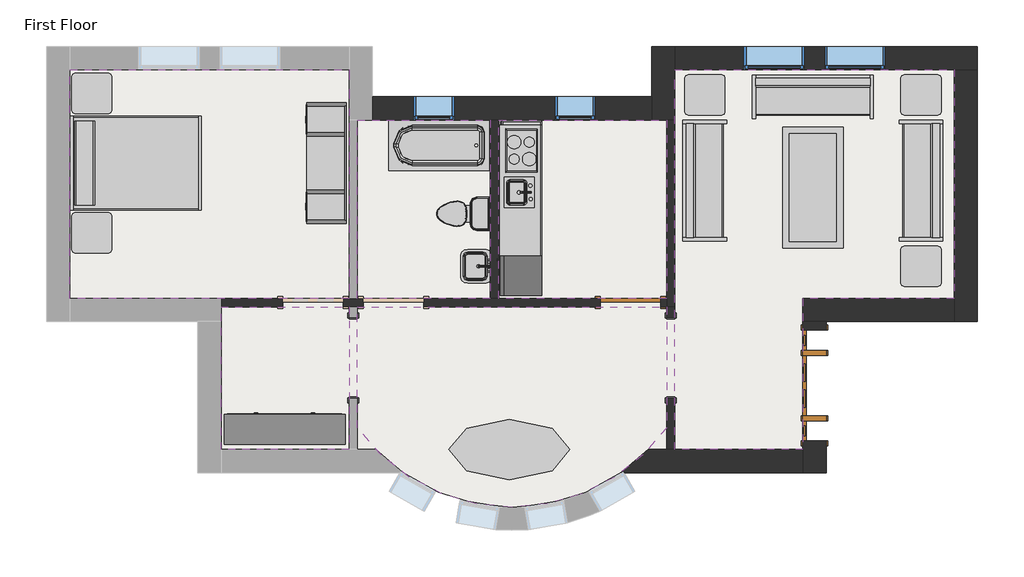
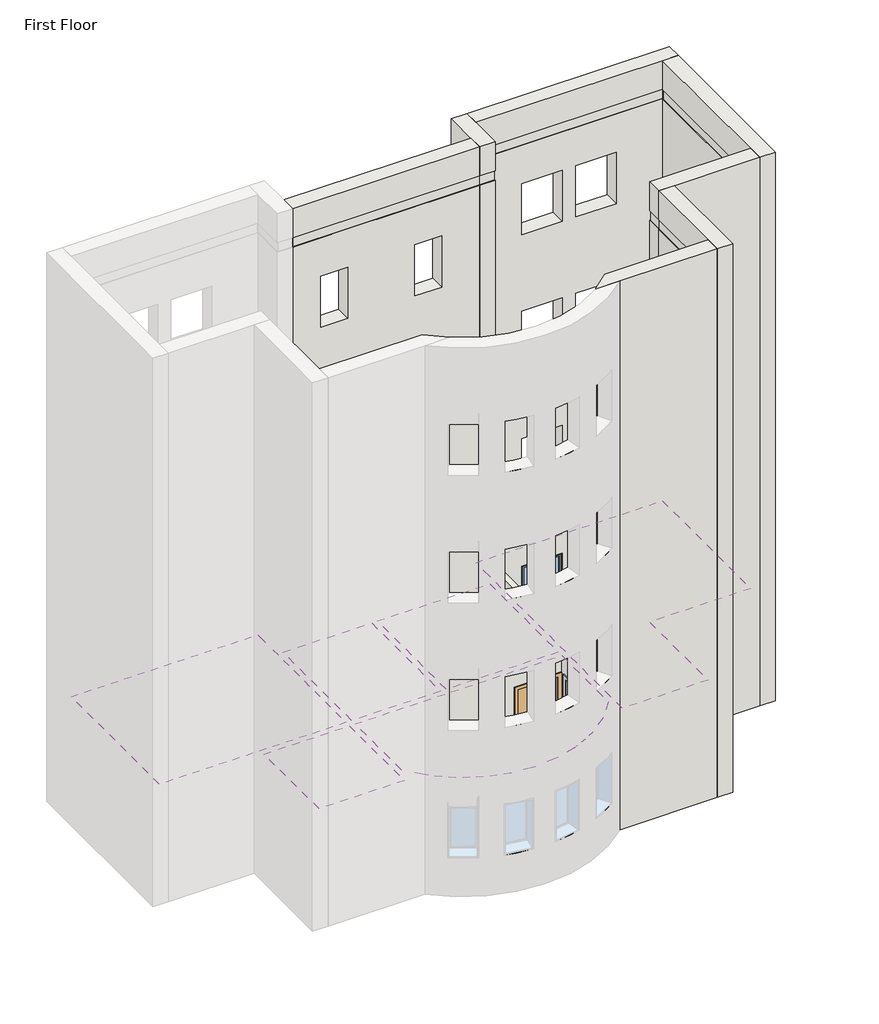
# One storey, part 3 of 3: 13 furniture elements, 11 walls, 6 coverings, 4 windows, 3 flow terminals, 3 proxies, 2 doors, 1 slab.
"""IFC4 building model written with IfcOpenShell, lengths in millimetres."""

from ifc_helpers import new_model, si_unit, point, frame, frame_2d, origin, origin_with_axes, place, context, project, spatial, polyline, circle_curve, trimmed, segment, composite_curve, outline, extrude, faceted_brep, transform, mapped, element, save
from ifc_brep_helpers import plane_surface, revolved_surface, advanced_brep
from components import kitchenette_medium_5_9f73a4de, proxy_f44482cc, door_a1797ceb, door_dba5aa2e, flow_terminal_0aeb31e3, toilet_domestic_3d_toilet_domestic_3d_f7549cf7, toilet_domestic_3d_toilet_domestic_3d_183bbd19, tub_rectangular_3d_tub_rectangular_3d_7c57b2e9, furniture_096e7f55, furniture_7c473f12, furniture_ddc78764, furniture_4ef38d96, furniture_dde8a40a, furniture_cd93a443, furniture_fe1f7ef6, furniture_3a588284, furniture_1befe2a2, window_60baf983, window_15c49d37

model = new_model("IFC4")

# Units and contexts
model_context = context("Model", 3, world=origin())
ifc_project = project(units=[si_unit("LENGTHUNIT", "METRE", prefix="MILLI")], contexts=[model_context])

# Site, building, storey
site = spatial("IfcSite", under=ifc_project)
building = spatial("IfcBuilding", under=site)
storey = spatial("IfcBuildingStorey", under=building, Name="First Floor", Elevation=0.0)

# Proxies
placement = place(None, origin())
kitchenette_medium_5_shape = kitchenette_medium_5_9f73a4de(model_context)
element("IfcBuildingElementProxy", 1, Name="Kitchenette - Medium : 5'", ObjectType="Kitchenette - Medium : 5'", at=placement, inside=storey, context=model_context, shape_type="MappedRepresentation", body=[
    mapped(kitchenette_medium_5_shape, transform((2117.6576571, 10885.525963, 0.0), x_axis=(0.0, -1.0, 0.0), y_axis=(1.0, 0.0, 0.0), z_axis=(0.0, 0.0, 1.0))),
])
proxy_shape = proxy_f44482cc(model_context)
element("IfcBuildingElementProxy", 2, Name="Opening-Cased : 48\" x 84\"", ObjectType="Opening-Cased : 48\" x 84\"", at=placement, inside=storey, context=model_context, shape_type="MappedRepresentation", body=[
    mapped(proxy_shape, transform((-732.7404149, 8023.3246014, 0.0), x_axis=(0.0, -1.0, 0.0), y_axis=(1.0, 0.0, 0.0), z_axis=(0.0, 0.0, 1.0))),
])
element("IfcBuildingElementProxy", 3, Name="Opening-Cased : 48\" x 84\"", ObjectType="Opening-Cased : 48\" x 84\"", at=placement, inside=storey, context=model_context, shape_type="MappedRepresentation", body=[
    mapped(proxy_shape, transform((4064.6845851, 8039.7019148, 0.0), x_axis=(0.0, 1.0, 0.0), y_axis=(-1.0, 0.0, 0.0), z_axis=(0.0, 0.0, 1.0))),
])

# Coverings
element("IfcCovering", 4, ObjectType="GWB on Mtl. Stud", at=placement, inside=storey, context=model_context, shape_type="SweptSolid", body=[
    extrude(outline(polyline([(-2906.0279149, 8933.2132581), (-5015.8154149, 8933.2132581), (-5015.8154149, 12390.7882581), (-796.2404149, 12390.7882581), (-796.2404149, 11805.0007581), (-796.2404149, 8933.2132581), (-2906.0279149, 8933.2132581)])), frame((0.0, 0.0, 2590.8), z_axis=(0.0, 0.0, 1.0), x_axis=(1.0, 0.0, 0.0)), (0.0, 0.0, 1.0), 107.95),
])
element("IfcCovering", 5, ObjectType="GWB on Mtl. Stud", at=placement, inside=storey, context=model_context, shape_type="SweptSolid", body=[
    extrude(outline(polyline([(-669.2404149, 8933.2132581), (-669.2404149, 11628.7882581), (1337.3595851, 11628.7882581), (1337.3595851, 8933.2132581), (-669.2404149, 8933.2132581)])), frame((0.0, 0.0, 2590.8), z_axis=(0.0, 0.0, 1.0), x_axis=(1.0, 0.0, 0.0)), (0.0, 0.0, 1.0), 107.95),
])
element("IfcCovering", 6, ObjectType="GWB on Mtl. Stud", at=placement, inside=storey, context=model_context, shape_type="SweptSolid", body=[
    extrude(outline(polyline([(1464.3595851, 11628.7882581), (4001.1845851, 11628.7882581), (4001.1845851, 8933.2132581), (1464.3595851, 8933.2132581), (1464.3595851, 11628.7882581)])), frame((0.0, 0.0, 2590.8), z_axis=(0.0, 0.0, 1.0), x_axis=(1.0, 0.0, 0.0)), (0.0, 0.0, 1.0), 107.95),
])
element("IfcCovering", 7, ObjectType="GWB on Mtl. Stud", at=placement, inside=storey, context=model_context, shape_type="SweptSolid", body=[
    extrude(outline(polyline([(8347.7595851, 12390.7882581), (8347.7595851, 8933.2132581), (6061.7595851, 8933.2132581), (6061.7595851, 6647.2132581), (4128.1845851, 6647.2132581), (4128.1845851, 8869.7132581), (4128.1845851, 11805.0007581), (4128.1845851, 12390.7882581), (8347.7595851, 12390.7882581)])), frame((0.0, 0.0, 2590.8), z_axis=(0.0, 0.0, 1.0), x_axis=(1.0, 0.0, 0.0)), (0.0, 0.0, 1.0), 107.95),
])
element("IfcCovering", 8, ObjectType="GWB on Mtl. Stud", at=placement, inside=storey, context=model_context, shape_type="SweptSolid", body=[
    extrude(outline(composite_curve([segment(trimmed(circle_curve(frame_2d((1665.9720851, 8647.7081431)), 2871.7875), [point((4001.1845851, 6976.19804))], [point((-669.2404149, 6976.19804))], False, "CARTESIAN"), True, "CONTINUOUS"), segment(polyline([(-669.2404149, 6976.19804), (-669.2404149, 8806.2132581), (4001.1845851, 8806.2132581), (4001.1845851, 6976.19804)]), True, "CONTINUOUS")], self_intersect=False)), frame((0.0, 0.0, 2590.8), z_axis=(0.0, 0.0, 1.0), x_axis=(1.0, 0.0, 0.0)), (0.0, 0.0, 1.0), 107.95),
])
element("IfcCovering", 9, ObjectType="GWB on Mtl. Stud", at=placement, inside=storey, context=model_context, shape_type="SweptSolid", body=[
    extrude(outline(polyline([(-796.2404149, 6647.2132581), (-2729.8154149, 6647.2132581), (-2729.8154149, 8806.2132581), (-796.2404149, 8806.2132581), (-796.2404149, 6647.2132581)])), frame((0.0, 0.0, 2590.8), z_axis=(0.0, 0.0, 1.0), x_axis=(1.0, 0.0, 0.0)), (0.0, 0.0, 1.0), 107.95),
])

# Doors
door_shape = door_a1797ceb(model_context)
element("IfcDoor", 10, ObjectType="Single-Flush : 36\" x 84\"", at=placement, inside=storey, context=model_context, shape_type="MappedRepresentation", body=[
    mapped(door_shape, transform((3455.0845851, 8869.7132581, 0.0), x_axis=(1.0, 0.0, 0.0), y_axis=(0.0, 1.0, 0.0), z_axis=(0.0, 0.0, 1.0))),
])
door_2_shape = door_dba5aa2e(model_context)
element("IfcDoor", 11, ObjectType="Single-Raised Panel with Sidelights : 36\" x 84\"", at=placement, inside=storey, context=model_context, shape_type="MappedRepresentation", body=[
    mapped(door_2_shape, transform((6237.9720851, 7614.0007581, 0.0), x_axis=(0.0, -1.0, 0.0), y_axis=(1.0, 0.0, 0.0), z_axis=(0.0, 0.0, 1.0))),
])

# Flow terminals
flow_terminal_shape = flow_terminal_0aeb31e3(model_context)
element("IfcFlowTerminal", 12, ObjectType="Sink Vanity-Square : 24\" x 19\"", at=placement, inside=storey, context=model_context, shape_type="MappedRepresentation", body=[
    mapped(flow_terminal_shape, transform((1157.214184, 9434.4995407, 0.0), x_axis=(0.0, -1.0, 0.0), y_axis=(1.0, 0.0, 0.0), z_axis=(0.0, 0.0, 1.0))),
])
toilet_domestic_3d_toilet_domestic_3d_shape = toilet_domestic_3d_toilet_domestic_3d_f7549cf7(model_context)
toilet_domestic_3d_toilet_domestic_3d_2_shape = toilet_domestic_3d_toilet_domestic_3d_183bbd19(model_context)
element("IfcFlowTerminal", 13, ObjectType="Toilet-Domestic-3D : Toilet-Domestic-3D", at=placement, inside=storey, context=model_context, shape_type="MappedRepresentation", body=[
    mapped(toilet_domestic_3d_toilet_domestic_3d_shape, transform((831.6983718, 10214.097778, 0.0), x_axis=(0.0, -1.0000000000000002, 0.0), y_axis=(1.0000000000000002, 0.0, 0.0), z_axis=(0.0, 0.0, 1.0))),
    mapped(toilet_domestic_3d_toilet_domestic_3d_2_shape, transform((831.6983718, 10214.097778, 0.0), x_axis=(0.0, -1.0000000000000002, 0.0), y_axis=(1.0000000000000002, 0.0, 0.0), z_axis=(0.0, 0.0, 1.0))),
])
tub_rectangular_3d_tub_rectangular_3d_shape = tub_rectangular_3d_tub_rectangular_3d_7c57b2e9(model_context)
element("IfcFlowTerminal", 14, ObjectType="Tub-Rectangular-3D : Tub-Rectangular-3D", at=placement, inside=storey, context=model_context, shape_type="MappedRepresentation", body=[
    mapped(tub_rectangular_3d_tub_rectangular_3d_shape, transform((214.0566164, 11805.0007581, 0.0), x_axis=(-0.9999999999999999, 0.0, 0.0), y_axis=(0.0, -0.9999999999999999, 0.0), z_axis=(0.0, 0.0, 1.0))),
])

# Furniture
furniture_shape = furniture_096e7f55(model_context)
element("IfcFurniture", 15, ObjectType="Bed-Shaker : Double 56\" x 78\"", at=placement, inside=storey, context=model_context, shape_type="MappedRepresentation", body=[
    mapped(furniture_shape, transform((-5013.1126898, 10998.5900785, 0.0), x_axis=(0.0, 1.0, 0.0), y_axis=(-1.0, 0.0, 0.0), z_axis=(0.0, 0.0, 1.0))),
])
furniture_2_shape = furniture_7c473f12(model_context)
element("IfcFurniture", 16, ObjectType="Dresser : 72\" x 60\" x 18\"", at=placement, inside=storey, context=model_context, shape_type="MappedRepresentation", body=[
    mapped(furniture_2_shape, transform((-2039.8604591, 6588.850304, 0.0), x_axis=(-1.0, 0.0, 0.0), y_axis=(0.0, -1.0, 0.0), z_axis=(0.0, 0.0, 1.0))),
])
furniture_3_shape = furniture_ddc78764(model_context)
element("IfcFurniture", 17, ObjectType="Entertainment Center : 72\" x 72\" x 24\"", at=placement, inside=storey, context=model_context, shape_type="MappedRepresentation", body=[
    mapped(furniture_3_shape, transform((-733.8851408, 10979.5400785, 0.0), x_axis=(0.0, -1.0, 0.0), y_axis=(1.0, 0.0, 0.0), z_axis=(0.0, 0.0, 1.0))),
])
furniture_4_shape = furniture_4ef38d96(model_context)
element("IfcFurniture", 18, ObjectType="Sofa : 72\"", at=placement, inside=storey, context=model_context, shape_type="MappedRepresentation", body=[
    mapped(furniture_4_shape, transform((6143.7890933, 11835.0591598, 0.0), x_axis=(1.0, 0.0, 0.0), y_axis=(0.0, 1.0, 0.0), z_axis=(0.0, 0.0, 1.0))),
])
element("IfcFurniture", 19, ObjectType="Sofa : 72\"", at=placement, inside=storey, context=model_context, shape_type="MappedRepresentation", body=[
    mapped(furniture_4_shape, transform((4726.0692419, 10644.2919955, 0.0), x_axis=(0.0, 1.0, 0.0), y_axis=(-1.0, 0.0, 0.0), z_axis=(0.0, 0.0, 1.0))),
])
furniture_5_shape = furniture_dde8a40a(model_context)
element("IfcFurniture", 20, ObjectType="Sofa : 72\"", at=placement, inside=storey, context=model_context, shape_type="MappedRepresentation", body=[
    mapped(furniture_5_shape, transform((7702.2499284, 10644.2919955, 0.0), x_axis=(0.0, 1.0, 0.0), y_axis=(-1.0, 0.0, 0.0), z_axis=(0.0, 0.0, 1.0))),
])
furniture_6_shape = furniture_cd93a443(model_context)
element("IfcFurniture", 21, ObjectType="Table-Coffee : 36\" x 72\" x 18\"", at=placement, inside=storey, context=model_context, shape_type="MappedRepresentation", body=[
    mapped(furniture_6_shape, transform((6118.9485073, 10627.8790248, 0.0), x_axis=(0.0, -1.0, 0.0), y_axis=(1.0, 0.0, 0.0), z_axis=(0.0, 0.0, 1.0))),
])
furniture_7_shape = furniture_fe1f7ef6(model_context)
element("IfcFurniture", 22, ObjectType="Table-Ellipse : 72\" x 36\"", at=placement, inside=storey, context=model_context, shape_type="MappedRepresentation", body=[
    mapped(furniture_7_shape, transform((1626.2845851, 6647.2132581, 0.0), x_axis=(1.0, 0.0, 0.0), y_axis=(0.0, 1.0, 0.0), z_axis=(0.0, 0.0, 1.0))),
])
furniture_8_shape = furniture_3a588284(model_context)
element("IfcFurniture", 23, ObjectType="Table-End : 24\" x 24\"", at=placement, inside=storey, context=model_context, shape_type="MappedRepresentation", body=[
    mapped(furniture_8_shape, transform((4271.3815133, 11857.6624873, 0.0), x_axis=(1.0, 0.0, 0.0), y_axis=(0.0, 1.0, 0.0), z_axis=(0.0, 0.0, 1.0))),
])
element("IfcFurniture", 24, ObjectType="Table-End : 24\" x 24\"", at=placement, inside=storey, context=model_context, shape_type="MappedRepresentation", body=[
    mapped(furniture_8_shape, transform((-4994.1490451, 11882.7882581, 0.0), x_axis=(1.0, 0.0, 0.0), y_axis=(0.0, 1.0, 0.0), z_axis=(0.0, 0.0, 1.0))),
])
element("IfcFurniture", 25, ObjectType="Table-End : 24\" x 24\"", at=placement, inside=storey, context=model_context, shape_type="MappedRepresentation", body=[
    mapped(furniture_8_shape, transform((8156.937657, 9571.6624873, 0.0), x_axis=(-1.0, 0.0, 0.0), y_axis=(0.0, -1.0, 0.0), z_axis=(0.0, 0.0, 1.0))),
])
furniture_9_shape = furniture_1befe2a2(model_context)
element("IfcFurniture", 26, ObjectType="Table-End : 24\" x 24\"", at=placement, inside=storey, context=model_context, shape_type="MappedRepresentation", body=[
    mapped(furniture_9_shape, transform((-4994.1490451, 10076.2918989, 0.0), x_axis=(1.0, 0.0, 0.0), y_axis=(0.0, 1.0, 0.0), z_axis=(0.0, 0.0, 1.0))),
])
element("IfcFurniture", 27, ObjectType="Table-End : 24\" x 24\"", at=placement, inside=storey, context=model_context, shape_type="MappedRepresentation", body=[
    mapped(furniture_9_shape, transform((8156.937657, 11857.6624873, 0.0), x_axis=(-1.0, 0.0, 0.0), y_axis=(0.0, -1.0, 0.0), z_axis=(0.0, 0.0, 1.0))),
])

# Slab
element("IfcSlab", 28, ObjectType="LW Concrete on Metal Deck", at=placement, inside=storey, context=model_context, shape_type="SweptSolid", body=[
    extrude(outline(composite_curve([segment(polyline([(-783.5404149, 12403.4882581), (-783.5404149, 11641.4882581), (4115.4845851, 11641.4882581), (4115.4845851, 12403.4882581), (8360.4595851, 12403.4882581), (8360.4595851, 8920.5132581), (6074.4595851, 8920.5132581), (6074.4595851, 6634.5132581), (3713.949087, 6634.5132581)]), True, "CONTINUOUS"), segment(trimmed(circle_curve(frame_2d((1665.9720851, 8647.7081431)), 2871.7875), [point((3713.949087, 6634.5132581))], [point((-382.0049167, 6634.5132581))], False, "CARTESIAN"), True, "CONTINUOUS"), segment(polyline([(-382.0049167, 6634.5132581), (-2742.5154149, 6634.5132581), (-2742.5154149, 8920.5132581), (-5028.5154149, 8920.5132581), (-5028.5154149, 12403.4882581), (-783.5404149, 12403.4882581)]), True, "CONTINUOUS")], self_intersect=False)), frame((0.0, 0.0, -104.775), z_axis=(0.0, 0.0, 1.0), x_axis=(1.0, 0.0, 0.0)), (0.0, 0.0, 1.0), 104.775),
])

# Walls
element("IfcWall", 29, ObjectType="Exterior - Brick on Mtl. Stud", at=placement, inside=storey, context=model_context, shape_type="Brep", body=[
    faceted_brep([(8347.7595851, 12390.7882581, 0.0), (8347.7595851, 8933.2132581, 0.0), (8347.7595851, 8580.7882581, 0.0), (8347.7595851, 8580.7882581, 13106.4), (8347.7595851, 8933.2132581, 13106.4), (8347.7595851, 12390.7882581, 13106.4), (8347.7595851, 12390.7882581, 12420.6), (8347.7595851, 8933.2132581, 12420.6), (8347.7595851, 8920.5132581, 12420.6), (8347.7595851, 8920.5132581, 12192.0), (8347.7595851, 8933.2132581, 12192.0), (8347.7595851, 12390.7882581, 12192.0), (8700.1845851, 8580.7882581, 0.0), (8700.1845851, 12390.7882581, 0.0), (8700.1845851, 12390.7882581, 13106.4), (8700.1845851, 8580.7882581, 13106.4), (8360.4595851, 12390.7882581, 12192.0), (8360.4595851, 12390.7882581, 12420.6), (8360.4595851, 8920.5132581, 12192.0), (8360.4595851, 8920.5132581, 12420.6)], [[[0, 1, 2, 3, 4, 5, 6, 7, 8, 9, 10, 11]], [[12, 13, 14, 15]], [[2, 1, 0, 13, 12]], [[5, 4, 3, 15, 14]], [[3, 2, 12, 15]], [[5, 14, 13, 0, 11, 16, 17, 6]], [[9, 18, 16, 11, 10]], [[17, 19, 8, 7, 6]], [[18, 19, 17, 16]], [[19, 18, 9, 8]]]),
])
element("IfcWall", 30, ObjectType="Exterior - Brick on Mtl. Stud", at=placement, inside=storey, context=model_context, shape_type="Brep", body=[
    faceted_brep([(8347.7595851, 8933.2132581, 0.0), (6061.7595851, 8933.2132581, 0.0), (6061.7595851, 8933.2132581, 12192.0), (8347.7595851, 8933.2132581, 12192.0), (6061.7595851, 8933.2132581, 13106.4), (8347.7595851, 8933.2132581, 13106.4), (8347.7595851, 8933.2132581, 12420.6), (6061.7595851, 8933.2132581, 12420.6), (6061.7595851, 8580.7882581, 0.0), (6414.1845851, 8580.7882581, 0.0), (8347.7595851, 8580.7882581, 0.0), (8347.7595851, 8580.7882581, 13106.4), (6414.1845851, 8580.7882581, 13106.4), (6061.7595851, 8580.7882581, 13106.4), (6061.7595851, 8580.7882581, 12420.6), (6074.4595851, 8580.7882581, 12420.6), (6074.4595851, 8580.7882581, 12192.0), (6061.7595851, 8580.7882581, 12192.0), (8347.7595851, 8920.5132581, 12192.0), (8347.7595851, 8920.5132581, 12420.6), (6074.4595851, 8920.5132581, 12192.0), (6074.4595851, 8920.5132581, 12420.6)], [[[0, 1, 2, 3]], [[4, 5, 6, 7]], [[8, 9, 10, 11, 12, 13, 14, 15, 16, 17]], [[1, 0, 10, 9, 8]], [[5, 4, 13, 12, 11]], [[1, 8, 17, 2]], [[13, 4, 7, 14]], [[5, 11, 10, 0, 3, 18, 19, 6]], [[16, 20, 18, 3, 2, 17]], [[19, 21, 15, 14, 7, 6]], [[20, 21, 19, 18]], [[21, 20, 16, 15]]]),
])
element("IfcWall", 31, ObjectType="Exterior - Brick on Mtl. Stud", at=placement, inside=storey, context=model_context, shape_type="Brep", body=[
    faceted_brep([(6061.7595851, 6294.7882581, 13106.4), (6061.7595851, 6647.2132581, 13106.4), (6061.7595851, 8580.7882581, 13106.4), (6061.7595851, 8580.7882581, 12420.6), (6061.7595851, 6647.2132581, 12420.6), (6061.7595851, 6634.5132581, 12420.6), (6061.7595851, 6634.5132581, 12192.0), (6061.7595851, 6647.2132581, 12192.0), (6061.7595851, 8580.7882581, 12192.0), (6061.7595851, 8580.7882581, 0.0), (6061.7595851, 8452.2007581, 0.0), (6061.7595851, 8452.2007581, 2133.6), (6061.7595851, 6775.8007581, 2133.6), (6061.7595851, 6775.8007581, 0.0), (6061.7595851, 6647.2132581, 0.0), (6061.7595851, 6294.7882581, 0.0), (6061.7595851, 6775.8007581, 9144.0), (6061.7595851, 8452.2007581, 9144.0), (6061.7595851, 8452.2007581, 11277.6), (6061.7595851, 6775.8007581, 11277.6), (6061.7595851, 6775.8007581, 3048.0), (6061.7595851, 8452.2007581, 3048.0), (6061.7595851, 8452.2007581, 5181.6), (6061.7595851, 6775.8007581, 5181.6), (6061.7595851, 6775.8007581, 6096.0), (6061.7595851, 8452.2007581, 6096.0), (6061.7595851, 8452.2007581, 8229.6), (6061.7595851, 6775.8007581, 8229.6), (6414.1845851, 8580.7882581, 13106.4), (6414.1845851, 6294.7882581, 13106.4), (6414.1845851, 6294.7882581, 0.0), (6414.1845851, 6775.8007581, 0.0), (6414.1845851, 6775.8007581, 2133.6), (6414.1845851, 8452.2007581, 2133.6), (6414.1845851, 8452.2007581, 0.0), (6414.1845851, 8580.7882581, 0.0), (6414.1845851, 8452.2007581, 9144.0), (6414.1845851, 6775.8007581, 9144.0), (6414.1845851, 6775.8007581, 11277.6), (6414.1845851, 8452.2007581, 11277.6), (6414.1845851, 8452.2007581, 3048.0), (6414.1845851, 6775.8007581, 3048.0), (6414.1845851, 6775.8007581, 5181.6), (6414.1845851, 8452.2007581, 5181.6), (6414.1845851, 8452.2007581, 6096.0), (6414.1845851, 6775.8007581, 6096.0), (6414.1845851, 6775.8007581, 8229.6), (6414.1845851, 8452.2007581, 8229.6), (6074.4595851, 8580.7882581, 12192.0), (6074.4595851, 8580.7882581, 12420.6), (6074.4595851, 6634.5132581, 12192.0), (6074.4595851, 6634.5132581, 12420.6)], [[[0, 1, 2, 3, 4, 5, 6, 7, 8, 9, 10, 11, 12, 13, 14, 15], [16, 17, 18, 19], [20, 21, 22, 23], [24, 25, 26, 27]], [[28, 29, 30, 31, 32, 33, 34, 35], [36, 37, 38, 39], [40, 41, 42, 43], [44, 45, 46, 47]], [[30, 15, 14, 13, 31]], [[9, 35, 34, 10]], [[2, 1, 0, 29, 28]], [[0, 15, 30, 29]], [[2, 28, 35, 9, 8, 48, 49, 3]], [[32, 31, 13, 12]], [[33, 32, 12, 11]], [[34, 33, 11, 10]], [[37, 36, 17, 16]], [[38, 37, 16, 19]], [[39, 38, 19, 18]], [[36, 39, 18, 17]], [[41, 40, 21, 20]], [[42, 41, 20, 23]], [[43, 42, 23, 22]], [[40, 43, 22, 21]], [[45, 44, 25, 24]], [[46, 45, 24, 27]], [[47, 46, 27, 26]], [[44, 47, 26, 25]], [[6, 50, 48, 8, 7]], [[49, 51, 5, 4, 3]], [[50, 51, 49, 48]], [[51, 50, 6, 5]]]),
])
element("IfcWall", 32, ObjectType="Exterior - Brick on Mtl. Stud", at=placement, inside=storey, context=model_context, shape_type="AdvancedBrep", body=[
    advanced_brep(
    [(6061.7595851, 6647.2132581, 0.0), (4128.1845851, 6647.2132581, 0.0), (4001.1845851, 6647.2132581, 0.0), (3726.3564328, 6647.2132581, 0.0), (3726.3564328, 6647.2132581, 12192.0), (4001.1845851, 6647.2132581, 12192.0), (4128.1845851, 6647.2132581, 12192.0), (6061.7595851, 6647.2132581, 12192.0), (3726.3564328, 6647.2132581, 13106.4), (6061.7595851, 6647.2132581, 13106.4), (6061.7595851, 6647.2132581, 12420.6), (3726.3564328, 6647.2132581, 12420.6), (3312.4627349, 6294.7882581, 0.0), (3870.3573191, 6294.7882581, 0.0), (6061.7595851, 6294.7882581, 0.0), (6061.7595851, 6294.7882581, 13106.4), (3870.3573191, 6294.7882581, 13106.4), (3312.4627349, 6294.7882581, 13106.4), (3312.4627349, 6294.7882581, 12420.6), (3620.9496559, 6294.7882581, 12420.6), (3620.9496559, 6294.7882581, 12192.0), (3312.4627349, 6294.7882581, 12192.0), (3312.4627349, 6294.7882581, 11277.6), (3361.7509829, 6294.7882581, 11277.6), (3361.7509829, 6294.7882581, 10058.4), (3312.4627349, 6294.7882581, 10058.4), (3312.4627349, 6294.7882581, 8229.6), (3361.7509829, 6294.7882581, 8229.6), (3361.7509829, 6294.7882581, 7010.4), (3312.4627349, 6294.7882581, 7010.4), (3312.4627349, 6294.7882581, 5181.6), (3361.7509829, 6294.7882581, 5181.6), (3361.7509829, 6294.7882581, 3962.4), (3312.4627349, 6294.7882581, 3962.4), (3312.4627349, 6294.7882581, 2133.6), (3361.7509829, 6294.7882581, 2133.6), (3361.7509829, 6294.7882581, 914.4), (3312.4627349, 6294.7882581, 914.4), (3320.3742367, 6300.3443098, 914.4), (3320.3742367, 6300.3443098, 2133.6), (3320.3742367, 6300.3443098, 3962.4), (3320.3742367, 6300.3443098, 5181.6), (3320.3742367, 6300.3443098, 7010.4), (3320.3742367, 6300.3443098, 8229.6), (3320.3742367, 6300.3443098, 10058.4), (3320.3742367, 6300.3443098, 11277.6), (6061.7595851, 6634.5132581, 12192.0), (6061.7595851, 6634.5132581, 12420.6), (3349.1702511, 6316.8014694, 914.4), (3349.1702511, 6316.8014694, 2133.6), (3349.1702511, 6316.8014694, 10058.4), (3349.1702511, 6316.8014694, 11277.6), (3349.1702511, 6316.8014694, 3962.4), (3349.1702511, 6316.8014694, 5181.6), (3349.1702511, 6316.8014694, 7010.4), (3349.1702511, 6316.8014694, 8229.6), (3969.2774584, 6634.5132581, 12192.0), (3969.2774584, 6634.5132581, 12420.6)],
    [
        (0, 1),
        (1, 2),
        (2, 3),
        (3, 4),
        (4, 5),
        (5, 6),
        (6, 7),
        (7, 0),
        (8, 9),
        (9, 10),
        (10, 11),
        (11, 8),
        (12, 13),
        (13, 14),
        (14, 15),
        (15, 16),
        (16, 17),
        (17, 18),
        (18, 19),
        (19, 20),
        (20, 21),
        (21, 22),
        (22, 23),
        (23, 24),
        (24, 25),
        (25, 26),
        (26, 27),
        (27, 28),
        (28, 29),
        (29, 30),
        (30, 31),
        (31, 32),
        (32, 33),
        (33, 34),
        (34, 35),
        (35, 36),
        (36, 37),
        (37, 12),
        (0, 14),
        (12, 3, circle_curve(frame((1665.9720851, 8647.7081431, 0.0), z_axis=(0.0, 0.0, 1.0), x_axis=(1.0, 0.0, 0.0)), 2871.7875)),
        (8, 17, circle_curve(frame((1665.9720851, 8647.7081431, 13106.4), z_axis=(0.0, 0.0, -1.0), x_axis=(1.0, 0.0, 0.0)), 2871.7875)),
        (15, 9),
        (37, 38, circle_curve(frame((1665.9720851, 8647.7081431, 914.4), z_axis=(0.0, 0.0, 1.0), x_axis=(1.0, 0.0, 0.0)), 2871.7875)),
        (38, 39),
        (39, 34, circle_curve(frame((1665.9720851, 8647.7081431, 2133.6), z_axis=(0.0, 0.0, -1.0), x_axis=(1.0, 0.0, 0.0)), 2871.7875)),
        (33, 40, circle_curve(frame((1665.9720851, 8647.7081431, 3962.4), z_axis=(0.0, 0.0, 1.0), x_axis=(1.0, 0.0, 0.0)), 2871.7875)),
        (40, 41),
        (41, 30, circle_curve(frame((1665.9720851, 8647.7081431, 5181.6), z_axis=(0.0, 0.0, -1.0), x_axis=(1.0, 0.0, 0.0)), 2871.7875)),
        (29, 42, circle_curve(frame((1665.9720851, 8647.7081431, 7010.4), z_axis=(0.0, 0.0, 1.0), x_axis=(1.0, 0.0, 0.0)), 2871.7875)),
        (42, 43),
        (43, 26, circle_curve(frame((1665.9720851, 8647.7081431, 8229.6), z_axis=(0.0, 0.0, -1.0), x_axis=(1.0, 0.0, 0.0)), 2871.7875)),
        (25, 44, circle_curve(frame((1665.9720851, 8647.7081431, 10058.4), z_axis=(0.0, 0.0, 1.0), x_axis=(1.0, 0.0, 0.0)), 2871.7875)),
        (44, 45),
        (45, 22, circle_curve(frame((1665.9720851, 8647.7081431, 11277.6), z_axis=(0.0, 0.0, -1.0), x_axis=(1.0, 0.0, 0.0)), 2871.7875)),
        (21, 4, circle_curve(frame((1665.9720851, 8647.7081431, 12192.0), z_axis=(0.0, 0.0, 1.0), x_axis=(1.0, 0.0, 0.0)), 2871.7875)),
        (11, 18, circle_curve(frame((1665.9720851, 8647.7081431, 12420.6), z_axis=(0.0, 0.0, -1.0), x_axis=(1.0, 0.0, 0.0)), 2871.7875)),
        (7, 46),
        (46, 47),
        (47, 10),
        (48, 49),
        (49, 39),
        (38, 48),
        (36, 48),
        (35, 49),
        (50, 51),
        (51, 45),
        (44, 50),
        (24, 50),
        (23, 51),
        (52, 53),
        (53, 41),
        (40, 52),
        (32, 52),
        (31, 53),
        (54, 55),
        (55, 43),
        (42, 54),
        (28, 54),
        (27, 55),
        (20, 56, circle_curve(frame((1665.9720851, 8647.7081431, 12192.0), z_axis=(0.0, 0.0, 1.0), x_axis=(1.0, 0.0, 0.0)), 3059.1125)),
        (56, 46),
        (47, 57),
        (57, 19, circle_curve(frame((1665.9720851, 8647.7081431, 12420.6), z_axis=(0.0, 0.0, -1.0), x_axis=(1.0, 0.0, 0.0)), 3059.1125)),
        (56, 57),
    ],
    [
        plane_surface(frame((6237.9720851, 6647.2132581, 0.0), z_axis=(0.0, 1.0, 0.0), x_axis=(-1.0, 0.0, 0.0))),
        plane_surface(frame((6237.9720851, 6294.7882581, 0.0), z_axis=(0.0, -1.0, 0.0), x_axis=(1.0, 0.0, 0.0))),
        plane_surface(frame((6237.9720851, 6647.2132581, 0.0), z_axis=(0.0, 0.0, -1.0), x_axis=(0.0, -1.0, 0.0))),
        plane_surface(frame((3799.5720851, 6647.2132581, 13106.4), z_axis=(0.0, 0.0, 1.0), x_axis=(0.0, -1.0, 0.0))),
        revolved_surface(polyline([(4537.7595851, 8647.7081431, 0.0), (4537.7595851, 8647.7081431, 12192.0)]), (1665.9720851, 8647.7081431, 0.0), (0.0, 0.0, -1.0)),
        revolved_surface(polyline([(4537.7595851, 8647.7081431, 12420.6), (4537.7595851, 8647.7081431, 13106.4)]), (1665.9720851, 8647.7081431, 0.0), (0.0, 0.0, -1.0)),
        plane_surface(frame((6061.7595851, 8757.0007581, 0.0), z_axis=(1.0, 0.0, 0.0), x_axis=(0.0, -1.0, 0.0))),
        plane_surface(frame((2819.9073972, 6014.3233852, 2133.6), z_axis=(0.49619108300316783, -0.8682133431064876, 0.0), x_axis=(0.0, 0.0, 1.0))),
        plane_surface(frame((2993.993531, 5709.7151216, 914.4), z_axis=(0.0, 0.0, 1.0), x_axis=(-0.4961910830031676, 0.8682133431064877, 0.0))),
        plane_surface(frame((3523.2563849, 6012.1932058, 914.4), z_axis=(-0.8682133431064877, -0.4961910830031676, 0.0), x_axis=(-0.4961910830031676, 0.8682133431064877, 0.0))),
        plane_surface(frame((3523.2563849, 6012.1932058, 2133.6), z_axis=(0.0, 0.0, -1.0), x_axis=(-0.4961910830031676, 0.8682133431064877, 0.0))),
        plane_surface(frame((2819.9073972, 6014.3233852, 11277.6), z_axis=(0.4961910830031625, -0.8682133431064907, 0.0), x_axis=(0.0, 0.0, 1.0))),
        plane_surface(frame((2993.993531, 5709.7151216, 10058.4), z_axis=(0.0, 0.0, 1.0000000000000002), x_axis=(-0.4961910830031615, 0.8682133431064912, 0.0))),
        plane_surface(frame((3523.2563849, 6012.1932058, 10058.4), z_axis=(-0.8682133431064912, -0.4961910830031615, 0.0), x_axis=(-0.4961910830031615, 0.8682133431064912, 0.0))),
        plane_surface(frame((3523.2563849, 6012.1932058, 11277.6), z_axis=(0.0, 0.0, -1.0000000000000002), x_axis=(-0.4961910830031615, 0.8682133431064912, 0.0))),
        plane_surface(frame((2819.9073972, 6014.3233852, 5181.6), z_axis=(0.4961910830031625, -0.8682133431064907, 0.0), x_axis=(0.0, 0.0, 1.0))),
        plane_surface(frame((2993.993531, 5709.7151216, 3962.4), z_axis=(0.0, 0.0, 1.0000000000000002), x_axis=(-0.4961910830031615, 0.8682133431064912, 0.0))),
        plane_surface(frame((3523.2563849, 6012.1932058, 3962.4), z_axis=(-0.8682133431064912, -0.4961910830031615, 0.0), x_axis=(-0.4961910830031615, 0.8682133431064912, 0.0))),
        plane_surface(frame((3523.2563849, 6012.1932058, 5181.6), z_axis=(0.0, 0.0, -1.0000000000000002), x_axis=(-0.4961910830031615, 0.8682133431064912, 0.0))),
        plane_surface(frame((2819.9073972, 6014.3233852, 8229.6), z_axis=(0.4961910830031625, -0.8682133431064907, 0.0), x_axis=(0.0, 0.0, 1.0))),
        plane_surface(frame((2993.993531, 5709.7151216, 7010.4), z_axis=(0.0, 0.0, 1.0000000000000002), x_axis=(-0.4961910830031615, 0.8682133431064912, 0.0))),
        plane_surface(frame((3523.2563849, 6012.1932058, 7010.4), z_axis=(-0.8682133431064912, -0.4961910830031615, 0.0), x_axis=(-0.4961910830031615, 0.8682133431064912, 0.0))),
        plane_surface(frame((3523.2563849, 6012.1932058, 8229.6), z_axis=(0.0, 0.0, -1.0000000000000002), x_axis=(-0.4961910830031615, 0.8682133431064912, 0.0))),
        plane_surface(frame((-5028.5154149, 12403.4882581, 12192.0), z_axis=(0.0, 0.0, 1.0), x_axis=(1.0, 0.0, 0.0))),
        plane_surface(frame((-5028.5154149, 12403.4882581, 12420.6), z_axis=(0.0, 0.0, -1.0), x_axis=(1.0, 0.0, 0.0))),
        plane_surface(frame((3969.2774584, 6634.5132581, 12192.0), z_axis=(0.0, 1.0, 0.0), x_axis=(1.0, 0.0, 0.0))),
        revolved_surface(polyline([(4725.0845851, 8647.7081431, 12420.6), (4725.0845851, 8647.7081431, 12192.0)]), (1665.9720851, 8647.7081431, 12192.0), (0.0, 0.0, 1.0)),
    ],
    [
        (0, [[1, 2, 3, 4, 5, 6, 7, 8]]),
        (0, [[9, 10, 11, 12]]),
        (1, [[13, 14, 15, 16, 17, 18, 19, 20, 21, 22, 23, 24, 25, 26, 27, 28, 29, 30, 31, 32, 33, 34, 35, 36, 37, 38]]),
        (2, [[-3, -2, -1, 39, -14, -13, 40]]),
        (3, [[-9, 41, -17, -16, 42]]),
        (4, [[-40, -38, 43, 44, 45, -34, 46, 47, 48, -30, 49, 50, 51, -26, 52, 53, 54, -22, 55, -4]]),
        (5, [[-41, -12, 56, -18]]),
        (6, [[-42, -15, -39, -8, 57, 58, 59, -10]]),
        (7, [[60, 61, -44, 62]]),
        (8, [[63, -62, -43, -37]]),
        (9, [[-60, -63, -36, 64]]),
        (10, [[-64, -35, -45, -61]]),
        (11, [[65, 66, -53, 67]]),
        (12, [[68, -67, -52, -25]]),
        (13, [[-65, -68, -24, 69]]),
        (14, [[-69, -23, -54, -66]]),
        (15, [[70, 71, -47, 72]]),
        (16, [[73, -72, -46, -33]]),
        (17, [[-70, -73, -32, 74]]),
        (18, [[-74, -31, -48, -71]]),
        (19, [[75, 76, -50, 77]]),
        (20, [[78, -77, -49, -29]]),
        (21, [[-75, -78, -28, 79]]),
        (22, [[-79, -27, -51, -76]]),
        (23, [[80, 81, -57, -7, -6, -5, -55, -21]]),
        (24, [[82, 83, -19, -56, -11, -59]]),
        (25, [[84, -82, -58, -81]]),
        (26, [[-84, -80, -20, -83]]),
    ],
),
])
element("IfcWall", 33, ObjectType="Exterior - Brick on Mtl. Stud", at=placement, inside=storey, context=model_context, shape_type="Brep", body=[
    faceted_brep([(-443.8154149, 11628.7882581, 0.0), (1337.3595851, 11628.7882581, 0.0), (1464.3595851, 11628.7882581, 0.0), (3775.7595851, 11628.7882581, 0.0), (3775.7595851, 11628.7882581, 12192.0), (1464.3595851, 11628.7882581, 12192.0), (1337.3595851, 11628.7882581, 12192.0), (-443.8154149, 11628.7882581, 12192.0), (2315.2595851, 11628.7882581, 914.4), (2315.2595851, 11628.7882581, 2133.6), (2924.8595851, 11628.7882581, 2133.6), (2924.8595851, 11628.7882581, 914.4), (181.6595851, 11628.7882581, 914.4), (181.6595851, 11628.7882581, 2133.6), (791.2595851, 11628.7882581, 2133.6), (791.2595851, 11628.7882581, 914.4), (2315.2595851, 11628.7882581, 10058.4), (2315.2595851, 11628.7882581, 11277.6), (2924.8595851, 11628.7882581, 11277.6), (2924.8595851, 11628.7882581, 10058.4), (181.6595851, 11628.7882581, 10058.4), (181.6595851, 11628.7882581, 11277.6), (791.2595851, 11628.7882581, 11277.6), (791.2595851, 11628.7882581, 10058.4), (2315.2595851, 11628.7882581, 3962.4), (2315.2595851, 11628.7882581, 5181.6), (2924.8595851, 11628.7882581, 5181.6), (2924.8595851, 11628.7882581, 3962.4), (181.6595851, 11628.7882581, 3962.4), (181.6595851, 11628.7882581, 5181.6), (791.2595851, 11628.7882581, 5181.6), (791.2595851, 11628.7882581, 3962.4), (2315.2595851, 11628.7882581, 7010.4), (2315.2595851, 11628.7882581, 8229.6), (2924.8595851, 11628.7882581, 8229.6), (2924.8595851, 11628.7882581, 7010.4), (181.6595851, 11628.7882581, 7010.4), (181.6595851, 11628.7882581, 8229.6), (791.2595851, 11628.7882581, 8229.6), (791.2595851, 11628.7882581, 7010.4), (3775.7595851, 11628.7882581, 13106.4), (-443.8154149, 11628.7882581, 13106.4), (-443.8154149, 11628.7882581, 12420.6), (3775.7595851, 11628.7882581, 12420.6), (3775.7595851, 11981.2132581, 0.0), (-443.8154149, 11981.2132581, 0.0), (-443.8154149, 11981.2132581, 13106.4), (3775.7595851, 11981.2132581, 13106.4), (2315.2595851, 11981.2132581, 2133.6), (2315.2595851, 11981.2132581, 914.4), (2924.8595851, 11981.2132581, 914.4), (2924.8595851, 11981.2132581, 2133.6), (181.6595851, 11981.2132581, 2133.6), (181.6595851, 11981.2132581, 914.4), (791.2595851, 11981.2132581, 914.4), (791.2595851, 11981.2132581, 2133.6), (2315.2595851, 11981.2132581, 11277.6), (2315.2595851, 11981.2132581, 10058.4), (2924.8595851, 11981.2132581, 10058.4), (2924.8595851, 11981.2132581, 11277.6), (181.6595851, 11981.2132581, 11277.6), (181.6595851, 11981.2132581, 10058.4), (791.2595851, 11981.2132581, 10058.4), (791.2595851, 11981.2132581, 11277.6), (2315.2595851, 11981.2132581, 5181.6), (2315.2595851, 11981.2132581, 3962.4), (2924.8595851, 11981.2132581, 3962.4), (2924.8595851, 11981.2132581, 5181.6), (181.6595851, 11981.2132581, 5181.6), (181.6595851, 11981.2132581, 3962.4), (791.2595851, 11981.2132581, 3962.4), (791.2595851, 11981.2132581, 5181.6), (2315.2595851, 11981.2132581, 8229.6), (2315.2595851, 11981.2132581, 7010.4), (2924.8595851, 11981.2132581, 7010.4), (2924.8595851, 11981.2132581, 8229.6), (181.6595851, 11981.2132581, 8229.6), (181.6595851, 11981.2132581, 7010.4), (791.2595851, 11981.2132581, 7010.4), (791.2595851, 11981.2132581, 8229.6), (-443.8154149, 11641.4882581, 12192.0), (-443.8154149, 11641.4882581, 12420.6), (3775.7595851, 11641.4882581, 12420.6), (3775.7595851, 11641.4882581, 12192.0)], [[[0, 1, 2, 3, 4, 5, 6, 7], [8, 9, 10, 11], [12, 13, 14, 15], [16, 17, 18, 19], [20, 21, 22, 23], [24, 25, 26, 27], [28, 29, 30, 31], [32, 33, 34, 35], [36, 37, 38, 39]], [[40, 41, 42, 43]], [[44, 45, 46, 47], [48, 49, 50, 51], [52, 53, 54, 55], [56, 57, 58, 59], [60, 61, 62, 63], [64, 65, 66, 67], [68, 69, 70, 71], [72, 73, 74, 75], [76, 77, 78, 79]], [[3, 2, 1, 0, 45, 44]], [[41, 40, 47, 46]], [[41, 46, 45, 0, 7, 80, 81, 42]], [[3, 44, 47, 40, 43, 82, 83, 4]], [[49, 48, 9, 8]], [[50, 49, 8, 11]], [[51, 50, 11, 10]], [[48, 51, 10, 9]], [[53, 52, 13, 12]], [[54, 53, 12, 15]], [[55, 54, 15, 14]], [[52, 55, 14, 13]], [[57, 56, 17, 16]], [[58, 57, 16, 19]], [[59, 58, 19, 18]], [[56, 59, 18, 17]], [[61, 60, 21, 20]], [[62, 61, 20, 23]], [[63, 62, 23, 22]], [[60, 63, 22, 21]], [[65, 64, 25, 24]], [[66, 65, 24, 27]], [[67, 66, 27, 26]], [[64, 67, 26, 25]], [[69, 68, 29, 28]], [[70, 69, 28, 31]], [[71, 70, 31, 30]], [[68, 71, 30, 29]], [[73, 72, 33, 32]], [[74, 73, 32, 35]], [[75, 74, 35, 34]], [[72, 75, 34, 33]], [[77, 76, 37, 36]], [[78, 77, 36, 39]], [[79, 78, 39, 38]], [[76, 79, 38, 37]], [[83, 80, 7, 6, 5, 4]], [[81, 82, 43, 42]], [[80, 83, 82, 81]]]),
])
element("IfcWall", 34, ObjectType="Exterior - Brick on Mtl. Stud", at=placement, inside=storey, context=model_context, shape_type="Brep", body=[
    faceted_brep([(4128.1845851, 11628.7882581, 0.0), (4128.1845851, 12390.7882581, 0.0), (4128.1845851, 12743.2132581, 0.0), (4128.1845851, 12743.2132581, 13106.4), (4128.1845851, 12390.7882581, 13106.4), (4128.1845851, 11628.7882581, 13106.4), (4128.1845851, 11628.7882581, 12420.6), (4128.1845851, 12390.7882581, 12420.6), (4128.1845851, 12403.4882581, 12420.6), (4128.1845851, 12403.4882581, 12192.0), (4128.1845851, 12390.7882581, 12192.0), (4128.1845851, 11628.7882581, 12192.0), (3775.7595851, 12743.2132581, 0.0), (3775.7595851, 11981.2132581, 0.0), (3775.7595851, 11628.7882581, 0.0), (3775.7595851, 11628.7882581, 12192.0), (3775.7595851, 11641.4882581, 12192.0), (3775.7595851, 11641.4882581, 12420.6), (3775.7595851, 11628.7882581, 12420.6), (3775.7595851, 11628.7882581, 13106.4), (3775.7595851, 11981.2132581, 13106.4), (3775.7595851, 12743.2132581, 13106.4), (4115.4845851, 12403.4882581, 12192.0), (4115.4845851, 11641.4882581, 12192.0), (4115.4845851, 11641.4882581, 12420.6), (4115.4845851, 12403.4882581, 12420.6)], [[[0, 1, 2, 3, 4, 5, 6, 7, 8, 9, 10, 11]], [[12, 13, 14, 15, 16, 17, 18, 19, 20, 21]], [[2, 1, 0, 14, 13, 12]], [[5, 4, 3, 21, 20, 19]], [[5, 19, 18, 6]], [[14, 0, 11, 15]], [[3, 2, 12, 21]], [[22, 23, 16, 15, 11, 10, 9]], [[24, 25, 8, 7, 6, 18, 17]], [[23, 24, 17, 16]], [[23, 22, 25, 24]], [[25, 22, 9, 8]]]),
])
element("IfcWall", 35, ObjectType="Exterior - Brick on Mtl. Stud", at=placement, inside=storey, context=model_context, shape_type="Brep", body=[
    faceted_brep([(4128.1845851, 12390.7882581, 0.0), (8347.7595851, 12390.7882581, 0.0), (8700.1845851, 12390.7882581, 0.0), (8700.1845851, 12390.7882581, 13106.4), (8347.7595851, 12390.7882581, 13106.4), (4128.1845851, 12390.7882581, 13106.4), (4128.1845851, 12390.7882581, 12420.6), (8347.7595851, 12390.7882581, 12420.6), (8360.4595851, 12390.7882581, 12420.6), (8360.4595851, 12390.7882581, 12192.0), (8347.7595851, 12390.7882581, 12192.0), (4128.1845851, 12390.7882581, 12192.0), (6390.3720851, 12390.7882581, 914.4), (6390.3720851, 12390.7882581, 2133.6), (7304.7720851, 12390.7882581, 2133.6), (7304.7720851, 12390.7882581, 914.4), (5171.1720851, 12390.7882581, 914.4), (5171.1720851, 12390.7882581, 2133.6), (6085.5720851, 12390.7882581, 2133.6), (6085.5720851, 12390.7882581, 914.4), (6390.3720851, 12390.7882581, 10058.4), (6390.3720851, 12390.7882581, 11277.6), (7304.7720851, 12390.7882581, 11277.6), (7304.7720851, 12390.7882581, 10058.4), (5171.1720851, 12390.7882581, 10058.4), (5171.1720851, 12390.7882581, 11277.6), (6085.5720851, 12390.7882581, 11277.6), (6085.5720851, 12390.7882581, 10058.4), (6390.3720851, 12390.7882581, 3962.4), (6390.3720851, 12390.7882581, 5181.6), (7304.7720851, 12390.7882581, 5181.6), (7304.7720851, 12390.7882581, 3962.4), (5171.1720851, 12390.7882581, 3962.4), (5171.1720851, 12390.7882581, 5181.6), (6085.5720851, 12390.7882581, 5181.6), (6085.5720851, 12390.7882581, 3962.4), (6390.3720851, 12390.7882581, 7010.4), (6390.3720851, 12390.7882581, 8229.6), (7304.7720851, 12390.7882581, 8229.6), (7304.7720851, 12390.7882581, 7010.4), (5171.1720851, 12390.7882581, 7010.4), (5171.1720851, 12390.7882581, 8229.6), (6085.5720851, 12390.7882581, 8229.6), (6085.5720851, 12390.7882581, 7010.4), (8700.1845851, 12743.2132581, 0.0), (4128.1845851, 12743.2132581, 0.0), (4128.1845851, 12743.2132581, 13106.4), (8700.1845851, 12743.2132581, 13106.4), (6390.3720851, 12743.2132581, 2133.6), (6390.3720851, 12743.2132581, 914.4), (7304.7720851, 12743.2132581, 914.4), (7304.7720851, 12743.2132581, 2133.6), (5171.1720851, 12743.2132581, 2133.6), (5171.1720851, 12743.2132581, 914.4), (6085.5720851, 12743.2132581, 914.4), (6085.5720851, 12743.2132581, 2133.6), (6390.3720851, 12743.2132581, 11277.6), (6390.3720851, 12743.2132581, 10058.4), (7304.7720851, 12743.2132581, 10058.4), (7304.7720851, 12743.2132581, 11277.6), (5171.1720851, 12743.2132581, 11277.6), (5171.1720851, 12743.2132581, 10058.4), (6085.5720851, 12743.2132581, 10058.4), (6085.5720851, 12743.2132581, 11277.6), (6390.3720851, 12743.2132581, 5181.6), (6390.3720851, 12743.2132581, 3962.4), (7304.7720851, 12743.2132581, 3962.4), (7304.7720851, 12743.2132581, 5181.6), (5171.1720851, 12743.2132581, 5181.6), (5171.1720851, 12743.2132581, 3962.4), (6085.5720851, 12743.2132581, 3962.4), (6085.5720851, 12743.2132581, 5181.6), (6390.3720851, 12743.2132581, 8229.6), (6390.3720851, 12743.2132581, 7010.4), (7304.7720851, 12743.2132581, 7010.4), (7304.7720851, 12743.2132581, 8229.6), (5171.1720851, 12743.2132581, 8229.6), (5171.1720851, 12743.2132581, 7010.4), (6085.5720851, 12743.2132581, 7010.4), (6085.5720851, 12743.2132581, 8229.6), (4128.1845851, 12403.4882581, 12192.0), (4128.1845851, 12403.4882581, 12420.6), (8360.4595851, 12403.4882581, 12192.0), (8360.4595851, 12403.4882581, 12420.6)], [[[0, 1, 2, 3, 4, 5, 6, 7, 8, 9, 10, 11], [12, 13, 14, 15], [16, 17, 18, 19], [20, 21, 22, 23], [24, 25, 26, 27], [28, 29, 30, 31], [32, 33, 34, 35], [36, 37, 38, 39], [40, 41, 42, 43]], [[44, 45, 46, 47], [48, 49, 50, 51], [52, 53, 54, 55], [56, 57, 58, 59], [60, 61, 62, 63], [64, 65, 66, 67], [68, 69, 70, 71], [72, 73, 74, 75], [76, 77, 78, 79]], [[2, 1, 0, 45, 44]], [[5, 4, 3, 47, 46]], [[3, 2, 44, 47]], [[5, 46, 45, 0, 11, 80, 81, 6]], [[49, 48, 13, 12]], [[50, 49, 12, 15]], [[51, 50, 15, 14]], [[48, 51, 14, 13]], [[53, 52, 17, 16]], [[54, 53, 16, 19]], [[55, 54, 19, 18]], [[52, 55, 18, 17]], [[57, 56, 21, 20]], [[58, 57, 20, 23]], [[59, 58, 23, 22]], [[56, 59, 22, 21]], [[61, 60, 25, 24]], [[62, 61, 24, 27]], [[63, 62, 27, 26]], [[60, 63, 26, 25]], [[65, 64, 29, 28]], [[66, 65, 28, 31]], [[67, 66, 31, 30]], [[64, 67, 30, 29]], [[69, 68, 33, 32]], [[70, 69, 32, 35]], [[71, 70, 35, 34]], [[68, 71, 34, 33]], [[73, 72, 37, 36]], [[74, 73, 36, 39]], [[75, 74, 39, 38]], [[72, 75, 38, 37]], [[77, 76, 41, 40]], [[78, 77, 40, 43]], [[79, 78, 43, 42]], [[76, 79, 42, 41]], [[9, 82, 80, 11, 10]], [[81, 83, 8, 7, 6]], [[82, 83, 81, 80]], [[83, 82, 9, 8]]]),
])
element("IfcWall", 36, ObjectType="Interior - 5\" Partition (2-hr)", at=placement, inside=storey, context=model_context, shape_type="Brep", body=[
    faceted_brep([(4001.1845851, 11628.7882581, 0.0), (4001.1845851, 8933.2132581, 0.0), (4001.1845851, 8806.2132581, 0.0), (4001.1845851, 8806.2132581, 3048.0), (4001.1845851, 8933.2132581, 3048.0), (4001.1845851, 11628.7882581, 3048.0), (4128.1845851, 11628.7882581, 0.0), (4128.1845851, 11628.7882581, 3048.0), (4128.1845851, 8806.2132581, 3048.0), (4128.1845851, 8806.2132581, 0.0)], [[[0, 1, 2, 3, 4, 5]], [[6, 7, 8, 9]], [[2, 1, 0, 6, 9]], [[5, 4, 3, 8, 7]], [[3, 2, 9, 8]], [[0, 5, 7, 6]]]),
])
element("IfcWall", 37, ObjectType="Interior - 5\" Partition (2-hr)", at=placement, inside=storey, context=model_context, shape_type="Brep", body=[
    faceted_brep([(-885.1404149, 8806.2132581, 2133.6), (-885.1404149, 8806.2132581, 0.0), (-796.2404149, 8806.2132581, 0.0), (-669.2404149, 8806.2132581, 0.0), (-580.3404149, 8806.2132581, 0.0), (-580.3404149, 8806.2132581, 2133.6), (334.0595851, 8806.2132581, 2133.6), (334.0595851, 8806.2132581, 0.0), (2997.8845851, 8806.2132581, 0.0), (2997.8845851, 8806.2132581, 2133.6), (3912.2845851, 8806.2132581, 2133.6), (3912.2845851, 8806.2132581, 0.0), (4001.1845851, 8806.2132581, 0.0), (4001.1845851, 8806.2132581, 3048.0), (-669.2404149, 8806.2132581, 3048.0), (-796.2404149, 8806.2132581, 3048.0), (-2729.8154149, 8806.2132581, 3048.0), (-2729.8154149, 8806.2132581, 0.0), (-1799.5404149, 8806.2132581, 0.0), (-1799.5404149, 8806.2132581, 2133.6), (-580.3404149, 8933.2132581, 0.0), (-669.2404149, 8933.2132581, 0.0), (-796.2404149, 8933.2132581, 0.0), (-885.1404149, 8933.2132581, 0.0), (-885.1404149, 8933.2132581, 2133.6), (-1799.5404149, 8933.2132581, 2133.6), (-1799.5404149, 8933.2132581, 0.0), (-2729.8154149, 8933.2132581, 0.0), (-2729.8154149, 8933.2132581, 3048.0), (-796.2404149, 8933.2132581, 3048.0), (-669.2404149, 8933.2132581, 3048.0), (1337.3595851, 8933.2132581, 3048.0), (1464.3595851, 8933.2132581, 3048.0), (4001.1845851, 8933.2132581, 3048.0), (4001.1845851, 8933.2132581, 0.0), (3912.2845851, 8933.2132581, 0.0), (3912.2845851, 8933.2132581, 2133.6), (2997.8845851, 8933.2132581, 2133.6), (2997.8845851, 8933.2132581, 0.0), (1464.3595851, 8933.2132581, 0.0), (1337.3595851, 8933.2132581, 0.0), (334.0595851, 8933.2132581, 0.0), (334.0595851, 8933.2132581, 2133.6), (-580.3404149, 8933.2132581, 2133.6)], [[[0, 1, 2, 3, 4, 5, 6, 7, 8, 9, 10, 11, 12, 13, 14, 15, 16, 17, 18, 19]], [[20, 21, 22, 23, 24, 25, 26, 27, 28, 29, 30, 31, 32, 33, 34, 35, 36, 37, 38, 39, 40, 41, 42, 43]], [[12, 11, 35, 34]], [[4, 3, 2, 1, 23, 22, 21, 20]], [[41, 40, 39, 38, 8, 7]], [[18, 17, 27, 26]], [[16, 15, 14, 13, 33, 32, 31, 30, 29, 28]], [[17, 16, 28, 27]], [[13, 12, 34, 33]], [[36, 35, 11, 10]], [[37, 36, 10, 9]], [[38, 37, 9, 8]], [[5, 4, 20, 43]], [[6, 5, 43, 42]], [[7, 6, 42, 41]], [[24, 23, 1, 0]], [[25, 24, 0, 19]], [[26, 25, 19, 18]]]),
])
element("IfcWall", 38, ObjectType="Interior - 5\" Partition (2-hr)", at=placement, inside=storey, context=model_context, shape_type="SweptSolid", body=[
    extrude(outline(polyline([(1464.3595851, 11628.7882581), (1464.3595851, 8933.2132581), (1337.3595851, 8933.2132581), (1337.3595851, 11628.7882581), (1464.3595851, 11628.7882581)])), origin_with_axes(), (0.0, 0.0, 1.0), 3048.0),
])
element("IfcWall", 39, ObjectType="Interior - 5\" Partition (2-hr)", at=placement, inside=storey, context=model_context, shape_type="SweptSolid", body=[
    extrude(outline(polyline([(8806.2132581, 0.0), (8641.1132581, 0.0), (8641.1132581, 2133.6), (7421.9132581, 2133.6), (7421.9132581, 0.0), (6647.2132581, 0.0), (6647.2132581, 3048.0), (8806.2132581, 3048.0), (8806.2132581, 0.0)])), frame((4001.1845851, 0.0, 0.0), z_axis=(1.0, 0.0, 0.0), x_axis=(0.0, 1.0, 0.0)), (0.0, 0.0, 1.0), 127.0),
])

# Windows
window_shape = window_60baf983(model_context)
element("IfcWindow", 40, ObjectType="Fixed : 24\" x 48\"", at=placement, inside=storey, context=model_context, shape_type="MappedRepresentation", body=[
    mapped(window_shape, transform((2581.9595851, 11805.0007581, 0.0), x_axis=(-0.9999999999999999, 0.0, 0.0), y_axis=(0.0, -0.9999999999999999, 0.0), z_axis=(0.0, 0.0, 1.0))),
])
element("IfcWindow", 41, ObjectType="Fixed : 24\" x 48\"", at=placement, inside=storey, context=model_context, shape_type="MappedRepresentation", body=[
    mapped(window_shape, transform((448.3595851, 11805.0007581, 0.0), x_axis=(-0.9999999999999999, 0.0, 0.0), y_axis=(0.0, -0.9999999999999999, 0.0), z_axis=(0.0, 0.0, 1.0))),
])
window_2_shape = window_15c49d37(model_context)
element("IfcWindow", 42, ObjectType="Fixed : 36\" x 48\"", at=placement, inside=storey, context=model_context, shape_type="MappedRepresentation", body=[
    mapped(window_2_shape, transform((6809.4720851, 12567.0007581, 0.0), x_axis=(-1.0, 0.0, 0.0), y_axis=(0.0, -1.0, 0.0), z_axis=(0.0, 0.0, 1.0))),
])
element("IfcWindow", 43, ObjectType="Fixed : 36\" x 48\"", at=placement, inside=storey, context=model_context, shape_type="MappedRepresentation", body=[
    mapped(window_2_shape, transform((5590.2720851, 12567.0007581, 0.0), x_axis=(-1.0, 0.0, 0.0), y_axis=(0.0, -1.0, 0.0), z_axis=(0.0, 0.0, 1.0))),
])

save(model, "model.ifc")
